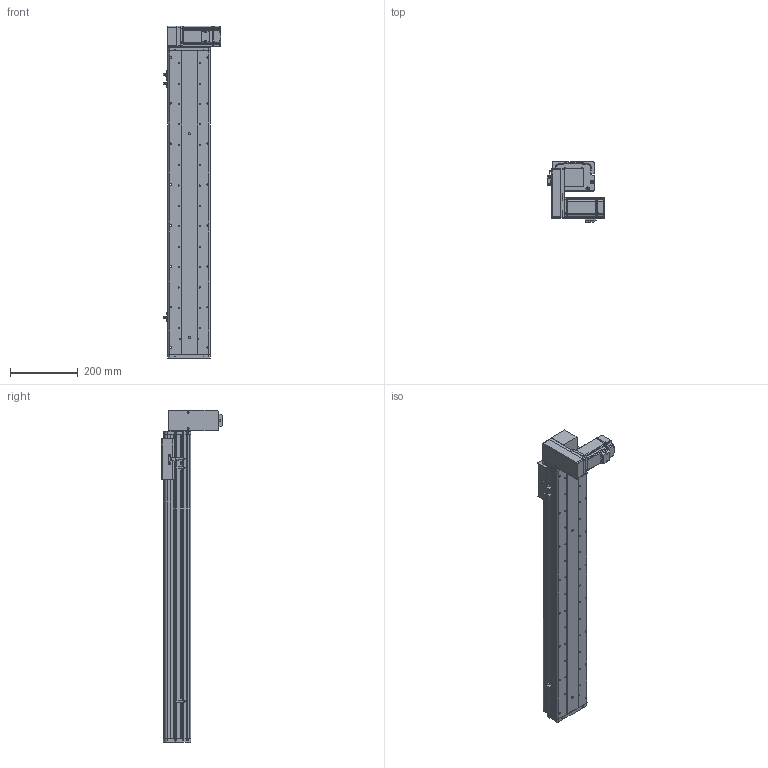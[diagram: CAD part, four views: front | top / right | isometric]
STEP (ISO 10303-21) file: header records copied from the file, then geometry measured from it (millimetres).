
FILE_DESCRIPTION (( 'STEP AP214' ), '1' );
FILE_NAME ('KSD125B-S700-MRD-CM.STEP', '2017-10-21T06:09:40', ( '微软用户' ), ( '微软中国' ), 'SwSTEP 2.0', 'SolidWorks 2014', '' );
FILE_SCHEMA (( 'AUTOMOTIVE_DESIGN' ));
Length unit declared in the file: millimetre
Products named in the file (17): 悵誘欶奻狟殏; HTPA30S3M150_A_H6_a萇儂蚚; HTPA30S3M150_A_H6_a佪裝蚚; 100宽马达安装板连板上下折丝杆同步带; KSD125模组700行程同步带-防尘盖; 125模组700行程同步带-底板; MHMD042G1CA_2_03; KSD125模组同步带-防撞垫2; 覜茼え68遵圉猾敕; U倰嫖萇假蚾璃; U倰嫖萇EEㄜSX672; KSD125模组同步带-防撞垫1; 100宽马达安装板同步带右; 前端板-125宽模组同步带; 125模组同步带-尾端板1; KSD125模组同步带-滑动座1; KSD125B-S700-MRD-CM
Assembly tree (20 placements, depth 2):
  KSD125B-S700-MRD-CM
    KSD125模组同步带-滑动座1
    125模组同步带-尾端板1
    前端板-125宽模组同步带
    100宽马达安装板同步带右
    KSD125模组同步带-防撞垫1
    U倰嫖萇EEㄜSX672  x3
    U倰嫖萇假蚾璃  x3
    覜茼え68遵圉猾敕
    KSD125模组同步带-防撞垫2
    MHMD042G1CA_2_03
    125模组700行程同步带-底板
    KSD125模组700行程同步带-防尘盖
    100宽马达安装板连板上下折丝杆同步带
    HTPA30S3M150_A_H6_a佪裝蚚
    HTPA30S3M150_A_H6_a萇儂蚚
    悵誘欶奻狟殏
Bounding box: 168.7 x 179.5 x 977 mm (x, y, z)
Volume: 3124659.3 mm3; surface area: 1068453.3 mm2
Topology: 19 solids, 22 shells, 2271 faces, 6577 edges, 4346 vertices
Faces by surface type: cylinder 1420, plane 724, cone 105, bspline 22
Entity records: 80651 total; most frequent: CARTESIAN_POINT 15939, DIRECTION 12542, ORIENTED_EDGE 11674, EDGE_CURVE 5915, AXIS2_PLACEMENT_3D 4845, VERTEX_POINT 3938, LINE 2852, VECTOR 2852
